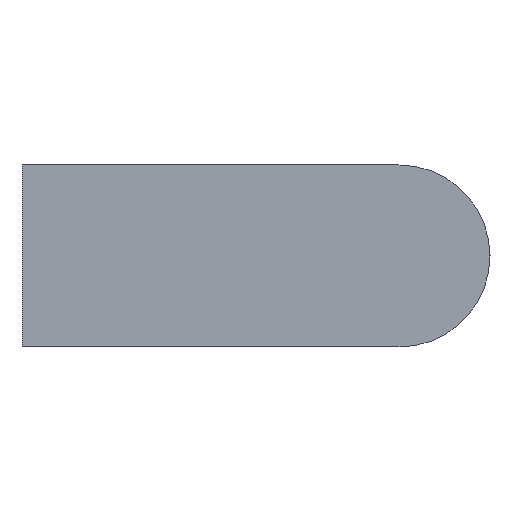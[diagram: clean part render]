
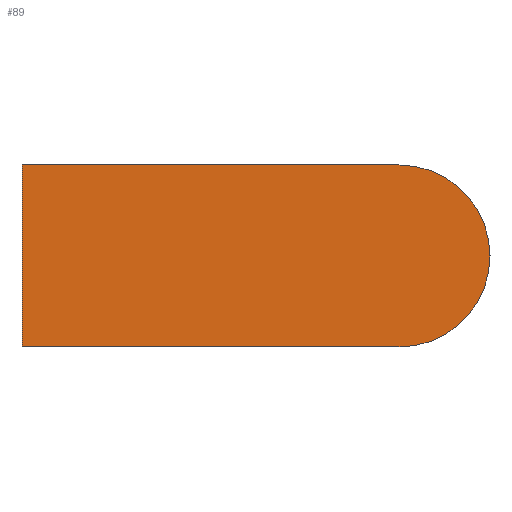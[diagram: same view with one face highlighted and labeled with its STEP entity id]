
A CAD part, left-side view. The second image highlights one B-rep face of the part: STEP entity #89.
In plain terms, the highlighted planar face has unit normal (-1, 0, 0).
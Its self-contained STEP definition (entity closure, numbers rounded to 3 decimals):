
#89 = ADVANCED_FACE( '', ( #130 ), #131, .F. );
#130 = FACE_OUTER_BOUND( '', #182, .T. );
#131 = PLANE( '', #183 );
#182 = EDGE_LOOP( '', ( #302, #303, #304, #305 ) );
#183 = AXIS2_PLACEMENT_3D( '', #306, #307, #308 );
#302 = ORIENTED_EDGE( '', *, *, #408, .F. );
#303 = ORIENTED_EDGE( '', *, *, #402, .F. );
#304 = ORIENTED_EDGE( '', *, *, #405, .F. );
#305 = ORIENTED_EDGE( '', *, *, #407, .F. );
#306 = CARTESIAN_POINT( '', ( -21., 0., 0. ) );
#307 = DIRECTION( '', ( 1., 0., 0. ) );
#308 = DIRECTION( '', ( 0., 0., -1. ) );
#402 = EDGE_CURVE( '', #469, #471, #472, .T. );
#405 = EDGE_CURVE( '', #474, #469, #476, .T. );
#407 = EDGE_CURVE( '', #477, #474, #479, .T. );
#408 = EDGE_CURVE( '', #471, #477, #480, .T. );
#469 = VERTEX_POINT( '', #562 );
#471 = VERTEX_POINT( '', #565 );
#472 = LINE( '', #566, #567 );
#474 = VERTEX_POINT( '', #570 );
#476 = LINE( '', #573, #574 );
#477 = VERTEX_POINT( '', #575 );
#479 = LINE( '', #578, #579 );
#480 = CIRCLE( '', #580, 7. );
#562 = CARTESIAN_POINT( '', ( -21., 0., 7. ) );
#565 = CARTESIAN_POINT( '', ( -21., -29., 7. ) );
#566 = CARTESIAN_POINT( '', ( -21., 0., 7. ) );
#567 = VECTOR( '', #674, 1. );
#570 = CARTESIAN_POINT( '', ( -21., 0., -7. ) );
#573 = CARTESIAN_POINT( '', ( -21., 0., -7. ) );
#574 = VECTOR( '', #677, 1. );
#575 = CARTESIAN_POINT( '', ( -21., -29., -7. ) );
#578 = CARTESIAN_POINT( '', ( -21., -29., -7. ) );
#579 = VECTOR( '', #679, 1. );
#580 = AXIS2_PLACEMENT_3D( '', #680, #681, #682 );
#674 = DIRECTION( '', ( 0., -1., 0. ) );
#677 = DIRECTION( '', ( 0., 0., 1. ) );
#679 = DIRECTION( '', ( 0., 1., 0. ) );
#680 = CARTESIAN_POINT( '', ( -21., -29., 0. ) );
#681 = DIRECTION( '', ( 1., 0., 0. ) );
#682 = DIRECTION( '', ( 0., 0., 1. ) );
